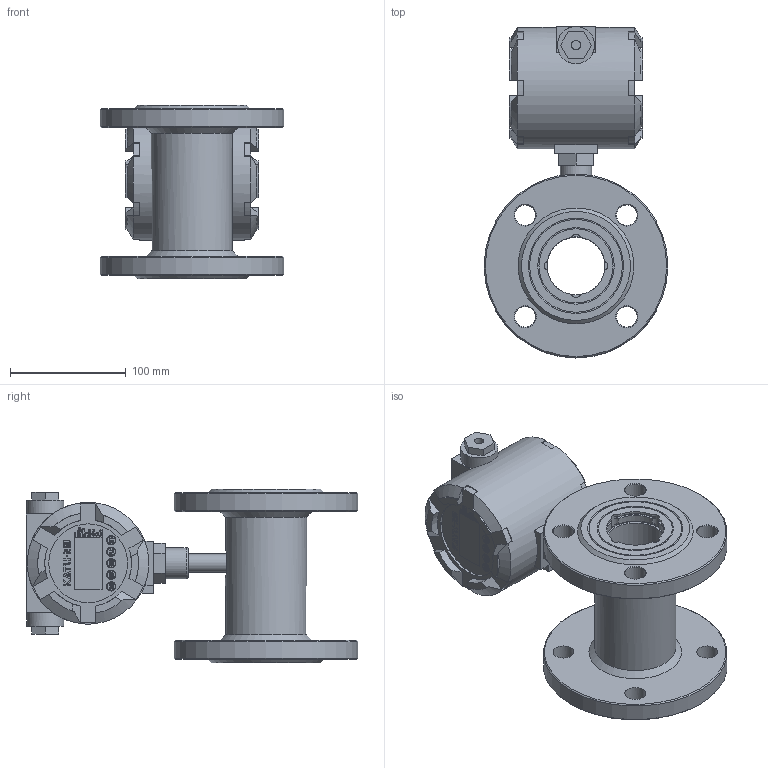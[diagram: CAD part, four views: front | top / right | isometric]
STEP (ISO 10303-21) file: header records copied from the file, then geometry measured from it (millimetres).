
FILE_DESCRIPTION( (''), '2;1');
FILE_NAME( 'QTKC_DN50_flange_Ex.step', '2024-10-14T10:23:54+08:00', (''), (''), '', '', '');
FILE_SCHEMA (('AUTOMOTIVE_DESIGN { 1 0 10303 214 3 1 1 1 }'));
Length unit declared in the file: millimetre
Products named in the file (1): QTKC DN50_flange_Ex
Bounding box: 158.5 x 286.25 x 150 mm (x, y, z)
Volume: 1737832.2 mm3; surface area: 215491 mm2
Topology: 4 solids, 4 shells, 1420 faces, 3887 edges, 2585 vertices
Faces by surface type: plane 754, extrusion 504, cylinder 118, cone 30, torus 10, bspline 4
Full cylindrical faces by diameter (mm): 3.3 x1, 8 x2, 16 x1, 16.5 x1, 18 x8, 18.5 x1, 20 x2, 27 x1, 32 x2, 50 x1, 68 x1, 70 x1, 105 x1, 158.5 x2
Entity records: 48077 total; most frequent: CARTESIAN_POINT 14154, ORIENTED_EDGE 7622, DIRECTION 5383, EDGE_CURVE 3811, VECTOR 2849, VERTEX_POINT 2562, LINE 2345, B_SPLINE_CURVE_WITH_KNOTS 1616
